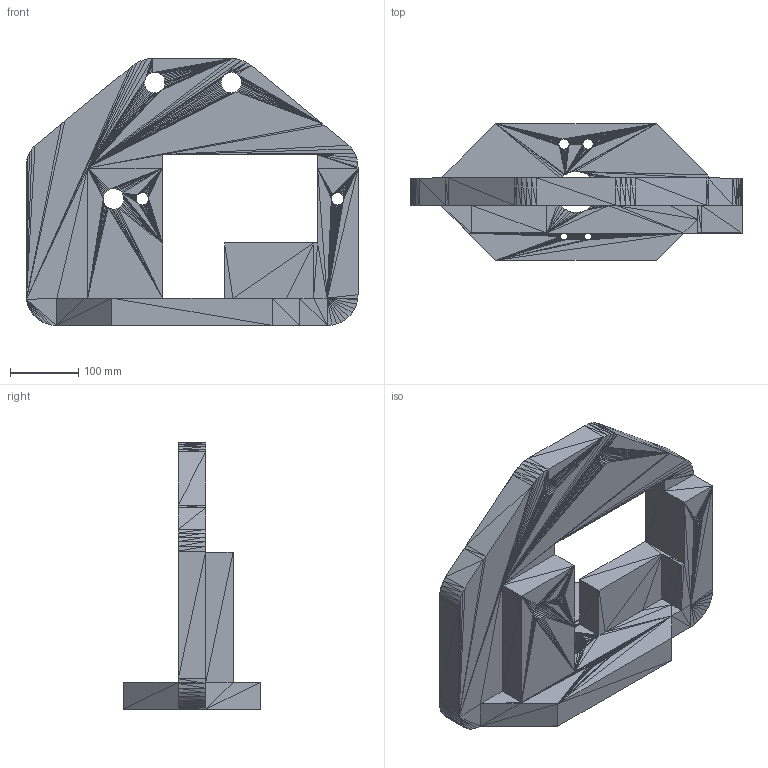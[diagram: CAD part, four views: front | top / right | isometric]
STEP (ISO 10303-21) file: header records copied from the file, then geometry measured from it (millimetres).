
FILE_DESCRIPTION(/* description */ (''),/* implementation_level */ '2;1');
FILE_NAME(/* name */ 'Gripperservoplate_v2.step',/* time_stamp */ '2026-08-26T22:18:04+02:00',/* author */ (''),/* organization */ (''),/* preprocessor_version */ 'ST-DEVELOPER v20.1',/* originating_system */ 'Autodesk Translation Framework v15.8.0.0',/* authorisation */ '');
FILE_SCHEMA (('AUTOMOTIVE_DESIGN { 1 0 10303 214 3 1 1 }'));
Length unit declared in the file: millimetre
Products named in the file (1): 2026-08-26-22-17-41-344
Bounding box: 485 x 200 x 390 mm (x, y, z)
Volume: 8249963.7 mm3; surface area: 520574.8 mm2
Topology: 1 solids, 1 shells, 2047 faces, 3072 edges, 1003 vertices
Faces by surface type: plane 2047
Entity records: 39927 total; most frequent: DIRECTION 7168, ORIENTED_EDGE 6144, CARTESIAN_POINT 6123, LINE 3072, VECTOR 3072, EDGE_CURVE 3072, AXIS2_PLACEMENT_3D 2048, FACE_OUTER_BOUND 2047
